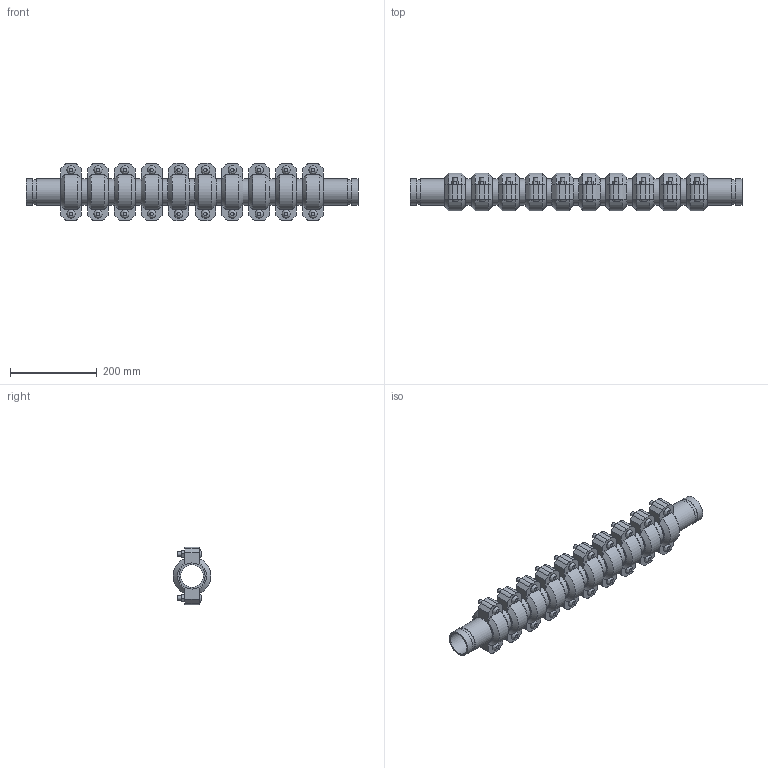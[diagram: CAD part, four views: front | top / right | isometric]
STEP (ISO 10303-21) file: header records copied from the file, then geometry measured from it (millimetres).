
FILE_DESCRIPTION(/* description */ ('VIC SS EXPANSION JOINT 10 COUPLINGS EXPANDED STYLE 155P (OGS) (POTABLE WATER) ','CAx-IF Rec.Pracs.---Representation and Presentation of Product Manufacturing Information (PMI)---4.0---2014-10-13'),/* implementation_level */ '2;1');
FILE_NAME(/* name */ 'C:\Users\kkamble\AppData\Roaming\Autodesk\ApplicationPlugins\Victaulic.Temp\A632\Victaulic_SS_Expansion Joint_Expanded_10 Couplings_Style 155P (OGS)-Potable Water_10 Coup_Expd_2 (50).stp',/* time_stamp */ '2021-07-16T16:44:44+05:00',/* author */ ('kkamble'),/* organization */ ('Victaulic'),/* preprocessor_version */ 'ST-DEVELOPER v17.2',/* originating_system */ 'Autodesk Inventor 2019',/* authorisation */ '');
FILE_SCHEMA (('AP242_MANAGED_MODEL_BASED_3D_ENGINEERING_MIM_LF { 1 0 10303 442 1 1 4 }'));
Length unit declared in the file: inch
Products named in the file (4): 155P-02.0; Nipple-02.0; Nipple-02.0_1; 075-02.0
Assembly tree (21 placements, depth 2):
  155P-02.0
    Nipple-02.0  x2
    Nipple-02.0_1  x9
    075-02.0  x10
Bounding box: 765.3 x 87.12 x 132.59 mm (x, y, z)
Volume: 2477309.8 mm3; surface area: 690590.5 mm2
Topology: 21 solids, 41 shells, 702 faces, 1661 edges, 1166 vertices
Faces by surface type: plane 426, cylinder 216, cone 40, bspline 20
Full cylindrical faces by diameter (mm): 9.525 x40, 11.43 x20, 52.502 x11, 53.975 x10, 57.15 x22, 60.325 x53
Entity records: 2886 total; most frequent: CARTESIAN_POINT 507, DIRECTION 485, ORIENTED_EDGE 386, AXIS2_PLACEMENT_3D 196, EDGE_CURVE 193, VERTEX_POINT 138, EDGE_LOOP 107, LINE 93
